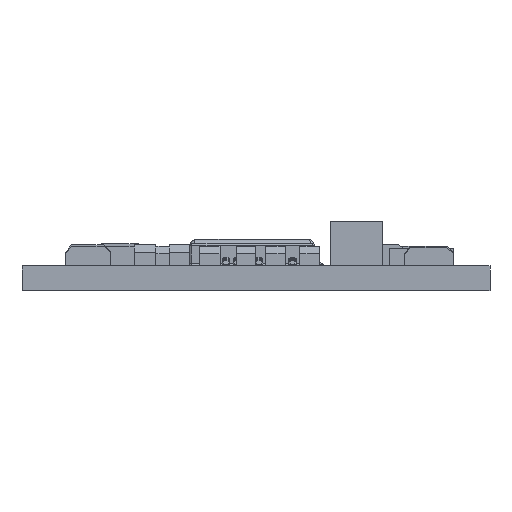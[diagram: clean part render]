
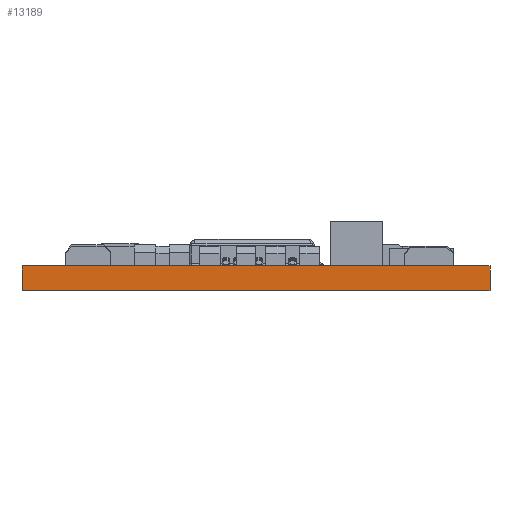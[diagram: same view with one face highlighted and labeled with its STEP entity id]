
A CAD part, front view. The second image highlights one B-rep face of the part: STEP entity #13189.
In plain terms, the highlighted planar face has unit normal (0, -1, 0).
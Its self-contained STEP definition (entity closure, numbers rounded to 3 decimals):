
#2014 = CARTESIAN_POINT ( 'NONE',  ( 0.016, 0., -1. ) ) ;
#2563 = VERTEX_POINT ( 'NONE', #48595 ) ;
#3028 = LINE ( 'NONE', #31335, #35987 ) ;
#3326 = ORIENTED_EDGE ( 'NONE', *, *, #50905, .T. ) ;
#6261 = EDGE_CURVE ( 'NONE', #62982, #35221, #50802, .T. ) ;
#7347 = FACE_OUTER_BOUND ( 'NONE', #62203, .T. ) ;
#8203 = EDGE_CURVE ( 'NONE', #2563, #35221, #69602, .T. ) ;
#8496 = DIRECTION ( 'NONE',  ( 0., 0., 1. ) ) ;
#9413 = ORIENTED_EDGE ( 'NONE', *, *, #68628, .F. ) ;
#11560 = DIRECTION ( 'NONE',  ( 1., 0., 0. ) ) ;
#13189 = ADVANCED_FACE ( 'NONE', ( #7347 ), #13497, .T. ) ;
#13497 = PLANE ( 'NONE',  #27405 ) ;
#15025 = VECTOR ( 'NONE', #8496, 1000. ) ;
#15204 = VECTOR ( 'NONE', #11560, 1000. ) ;
#27405 = AXIS2_PLACEMENT_3D ( 'NONE', #57877, #63226, #30468 ) ;
#29803 = LINE ( 'NONE', #59377, #15025 ) ;
#30269 = VERTEX_POINT ( 'NONE', #2014 ) ;
#30468 = DIRECTION ( 'NONE',  ( 0., 0., -1. ) ) ;
#31335 = CARTESIAN_POINT ( 'NONE',  ( 0.016, 0., -1. ) ) ;
#35221 = VERTEX_POINT ( 'NONE', #38574 ) ;
#35987 = VECTOR ( 'NONE', #53870, 1000. ) ;
#38574 = CARTESIAN_POINT ( 'NONE',  ( 18.931, 0., 0. ) ) ;
#40100 = VECTOR ( 'NONE', #53471, 1000. ) ;
#48595 = CARTESIAN_POINT ( 'NONE',  ( 18.931, 0., -1. ) ) ;
#48864 = ORIENTED_EDGE ( 'NONE', *, *, #6261, .F. ) ;
#49617 = ORIENTED_EDGE ( 'NONE', *, *, #8203, .T. ) ;
#49890 = CARTESIAN_POINT ( 'NONE',  ( 0.016, 0., 0. ) ) ;
#50802 = LINE ( 'NONE', #49890, #15204 ) ;
#50905 = EDGE_CURVE ( 'NONE', #30269, #2563, #3028, .T. ) ;
#53471 = DIRECTION ( 'NONE',  ( 0., 0., 1. ) ) ;
#53870 = DIRECTION ( 'NONE',  ( 1., 0., 0. ) ) ;
#57877 = CARTESIAN_POINT ( 'NONE',  ( 0.016, 0., -1. ) ) ;
#59377 = CARTESIAN_POINT ( 'NONE',  ( 0.016, 0., -1. ) ) ;
#62203 = EDGE_LOOP ( 'NONE', ( #48864, #9413, #3326, #49617 ) ) ;
#62982 = VERTEX_POINT ( 'NONE', #63974 ) ;
#63226 = DIRECTION ( 'NONE',  ( 0., -1., 0. ) ) ;
#63974 = CARTESIAN_POINT ( 'NONE',  ( 0.016, 0., 0. ) ) ;
#68628 = EDGE_CURVE ( 'NONE', #30269, #62982, #29803, .T. ) ;
#69602 = LINE ( 'NONE', #70480, #40100 ) ;
#70480 = CARTESIAN_POINT ( 'NONE',  ( 18.931, 0., -1. ) ) ;
